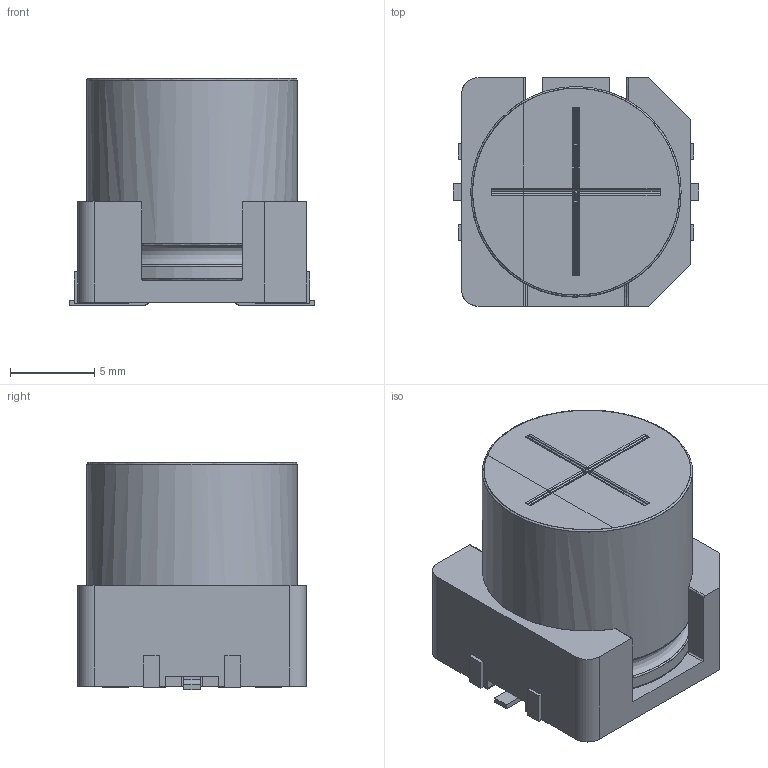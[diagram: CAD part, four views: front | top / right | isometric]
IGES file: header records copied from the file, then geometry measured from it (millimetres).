
Start section: JAMA-IS VERSION  1.0
Bounding box: 14.6 x 13.6 x 13.5 mm (x, y, z)
Surface area: 1625.1 mm2 (no closed solid volume)
Topology: 0 solids, 0 shells, 184 faces, 1513 edges, 1492 vertices
Faces by surface type: bspline 184
